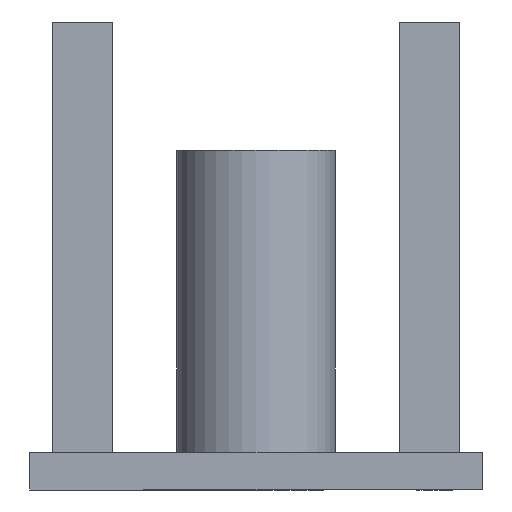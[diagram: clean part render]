
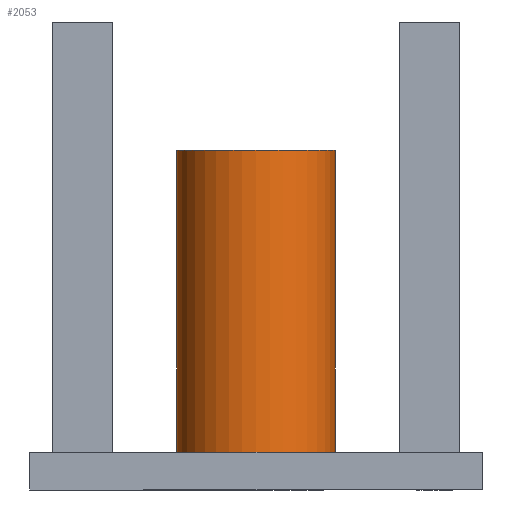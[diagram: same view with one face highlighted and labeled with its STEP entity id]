
A CAD part, left-side view. The second image highlights one B-rep face of the part: STEP entity #2053.
In plain terms, the highlighted cylindrical face has radius 10.5 mm (diameter 21 mm), a full revolution.
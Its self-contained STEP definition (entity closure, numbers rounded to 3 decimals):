
#72 = PLANE('',#73);
#73 = AXIS2_PLACEMENT_3D('',#74,#75,#76);
#74 = CARTESIAN_POINT('',(-50.,30.,5.));
#75 = DIRECTION('',(0.,0.,-1.));
#76 = DIRECTION('',(1.,0.,0.));
#833 = EDGE_CURVE('',#834,#834,#836,.T.);
#834 = VERTEX_POINT('',#835);
#835 = CARTESIAN_POINT('',(-24.,0.,5.));
#836 = SURFACE_CURVE('',#837,(#842,#853),.PCURVE_S1.);
#837 = CIRCLE('',#838,10.5);
#838 = AXIS2_PLACEMENT_3D('',#839,#840,#841);
#839 = CARTESIAN_POINT('',(-34.5,0.,5.));
#840 = DIRECTION('',(-0.,0.,1.));
#841 = DIRECTION('',(1.,0.,0.));
#842 = PCURVE('',#72,#843);
#843 = DEFINITIONAL_REPRESENTATION('',(#844),#852);
#844 = ( BOUNDED_CURVE() B_SPLINE_CURVE(2,(#845,#846,#847,#848,#849,#850
,#851),.UNSPECIFIED.,.T.,.F.) B_SPLINE_CURVE_WITH_KNOTS((1,2,2,2,2,1),(
    -2.094,0.,2.094,4.189,6.283,
8.378),.UNSPECIFIED.) CURVE() GEOMETRIC_REPRESENTATION_ITEM() 
RATIONAL_B_SPLINE_CURVE((1.,0.5,1.,0.5,1.,0.5,1.)) REPRESENTATION_ITEM(
  '') );
#845 = CARTESIAN_POINT('',(26.,30.));
#846 = CARTESIAN_POINT('',(26.,11.813));
#847 = CARTESIAN_POINT('',(10.25,20.907));
#848 = CARTESIAN_POINT('',(-5.5,30.));
#849 = CARTESIAN_POINT('',(10.25,39.093));
#850 = CARTESIAN_POINT('',(26.,48.187));
#851 = CARTESIAN_POINT('',(26.,30.));
#852 = ( GEOMETRIC_REPRESENTATION_CONTEXT(2) 
PARAMETRIC_REPRESENTATION_CONTEXT() REPRESENTATION_CONTEXT('2D SPACE',''
  ) );
#853 = PCURVE('',#854,#859);
#854 = CYLINDRICAL_SURFACE('',#855,10.5);
#855 = AXIS2_PLACEMENT_3D('',#856,#857,#858);
#856 = CARTESIAN_POINT('',(-34.5,0.,45.));
#857 = DIRECTION('',(-0.,0.,1.));
#858 = DIRECTION('',(1.,0.,0.));
#859 = DEFINITIONAL_REPRESENTATION('',(#860),#864);
#860 = LINE('',#861,#862);
#861 = CARTESIAN_POINT('',(-6.283,-40.));
#862 = VECTOR('',#863,1.);
#863 = DIRECTION('',(1.,-0.));
#864 = ( GEOMETRIC_REPRESENTATION_CONTEXT(2) 
PARAMETRIC_REPRESENTATION_CONTEXT() REPRESENTATION_CONTEXT('2D SPACE',''
  ) );
#2053 = ADVANCED_FACE('',(#2054),#854,.T.);
#2054 = FACE_BOUND('',#2055,.F.);
#2055 = EDGE_LOOP('',(#2056,#2085,#2106,#2107));
#2056 = ORIENTED_EDGE('',*,*,#2057,.F.);
#2057 = EDGE_CURVE('',#2058,#2058,#2060,.T.);
#2058 = VERTEX_POINT('',#2059);
#2059 = CARTESIAN_POINT('',(-24.,0.,45.));
#2060 = SURFACE_CURVE('',#2061,(#2066,#2073),.PCURVE_S1.);
#2061 = CIRCLE('',#2062,10.5);
#2062 = AXIS2_PLACEMENT_3D('',#2063,#2064,#2065);
#2063 = CARTESIAN_POINT('',(-34.5,0.,45.));
#2064 = DIRECTION('',(0.,0.,-1.));
#2065 = DIRECTION('',(1.,0.,0.));
#2066 = PCURVE('',#854,#2067);
#2067 = DEFINITIONAL_REPRESENTATION('',(#2068),#2072);
#2068 = LINE('',#2069,#2070);
#2069 = CARTESIAN_POINT('',(-0.,0.));
#2070 = VECTOR('',#2071,1.);
#2071 = DIRECTION('',(-1.,0.));
#2072 = ( GEOMETRIC_REPRESENTATION_CONTEXT(2) 
PARAMETRIC_REPRESENTATION_CONTEXT() REPRESENTATION_CONTEXT('2D SPACE',''
  ) );
#2073 = PCURVE('',#2074,#2079);
#2074 = PLANE('',#2075);
#2075 = AXIS2_PLACEMENT_3D('',#2076,#2077,#2078);
#2076 = CARTESIAN_POINT('',(-34.5,0.,45.));
#2077 = DIRECTION('',(0.,0.,-1.));
#2078 = DIRECTION('',(1.,0.,0.));
#2079 = DEFINITIONAL_REPRESENTATION('',(#2080),#2084);
#2080 = CIRCLE('',#2081,10.5);
#2081 = AXIS2_PLACEMENT_2D('',#2082,#2083);
#2082 = CARTESIAN_POINT('',(0.,0.));
#2083 = DIRECTION('',(1.,0.));
#2084 = ( GEOMETRIC_REPRESENTATION_CONTEXT(2) 
PARAMETRIC_REPRESENTATION_CONTEXT() REPRESENTATION_CONTEXT('2D SPACE',''
  ) );
#2085 = ORIENTED_EDGE('',*,*,#2086,.T.);
#2086 = EDGE_CURVE('',#2058,#834,#2087,.T.);
#2087 = SEAM_CURVE('',#2088,(#2092,#2099),.PCURVE_S1.);
#2088 = LINE('',#2089,#2090);
#2089 = CARTESIAN_POINT('',(-24.,0.,45.));
#2090 = VECTOR('',#2091,1.);
#2091 = DIRECTION('',(0.,0.,-1.));
#2092 = PCURVE('',#854,#2093);
#2093 = DEFINITIONAL_REPRESENTATION('',(#2094),#2098);
#2094 = LINE('',#2095,#2096);
#2095 = CARTESIAN_POINT('',(-6.283,0.));
#2096 = VECTOR('',#2097,1.);
#2097 = DIRECTION('',(-0.,-1.));
#2098 = ( GEOMETRIC_REPRESENTATION_CONTEXT(2) 
PARAMETRIC_REPRESENTATION_CONTEXT() REPRESENTATION_CONTEXT('2D SPACE',''
  ) );
#2099 = PCURVE('',#854,#2100);
#2100 = DEFINITIONAL_REPRESENTATION('',(#2101),#2105);
#2101 = LINE('',#2102,#2103);
#2102 = CARTESIAN_POINT('',(-0.,0.));
#2103 = VECTOR('',#2104,1.);
#2104 = DIRECTION('',(-0.,-1.));
#2105 = ( GEOMETRIC_REPRESENTATION_CONTEXT(2) 
PARAMETRIC_REPRESENTATION_CONTEXT() REPRESENTATION_CONTEXT('2D SPACE',''
  ) );
#2106 = ORIENTED_EDGE('',*,*,#833,.F.);
#2107 = ORIENTED_EDGE('',*,*,#2086,.F.);
